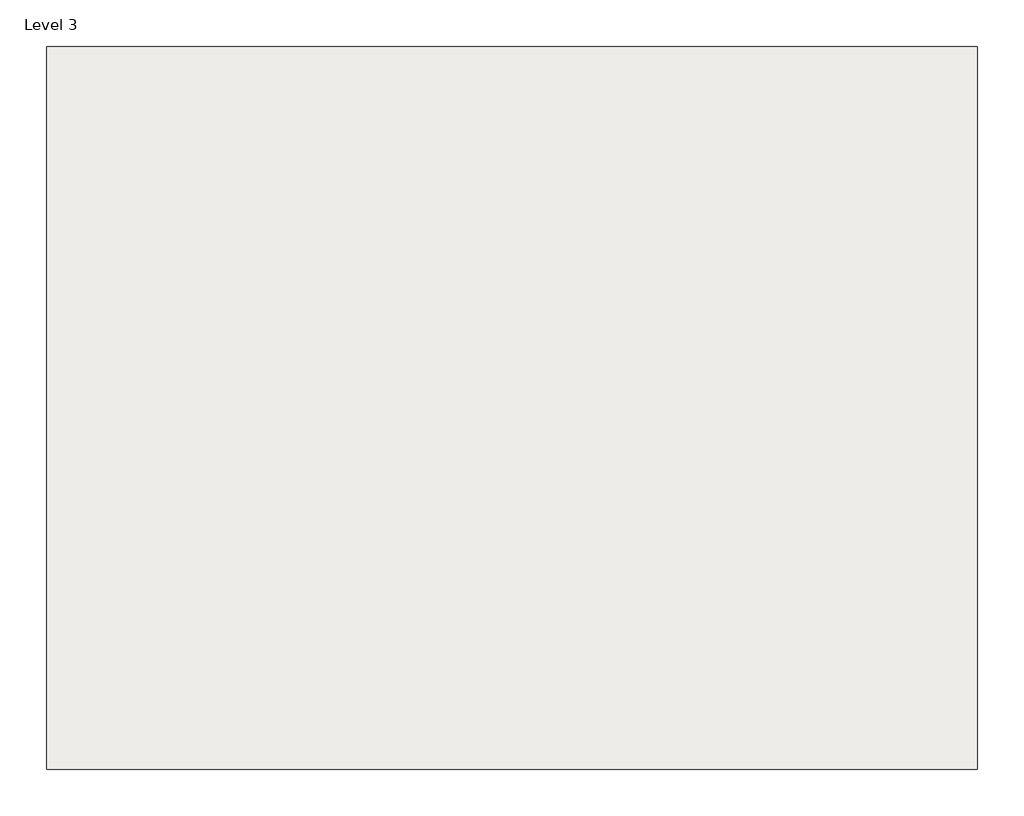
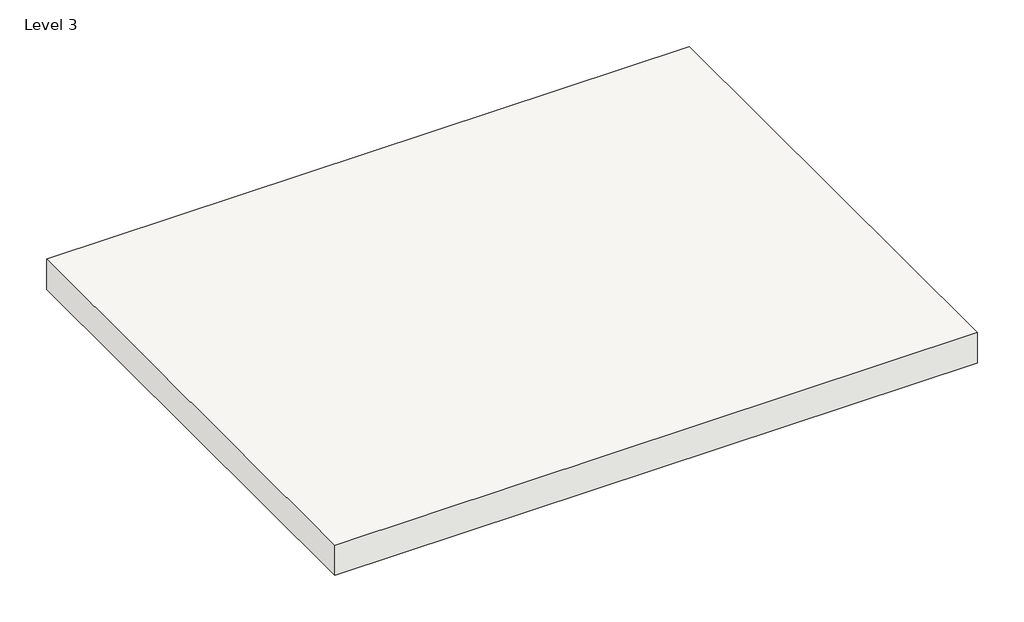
# One storey: 1 roof.
"""IFC4 building model written with IfcOpenShell, lengths in millimetres."""

from ifc_helpers import new_model, si_unit, frame, origin, place, context, project, spatial, polyline, outline, extrude, element, save

model = new_model("IFC4")

# Units and contexts
model_context = context("Model", 3, world=origin())
ifc_project = project(units=[si_unit("LENGTHUNIT", "METRE", prefix="MILLI")], contexts=[model_context])

# Site, building, storey
site = spatial("IfcSite", under=ifc_project)
building = spatial("IfcBuilding", under=site)
storey = spatial("IfcBuildingStorey", under=building, Name="Level 3", Elevation=6096.0)

# Roof
placement = place(None, origin())
element("IfcRoof", 1, ObjectType="Generic - 12\"", at=placement, inside=storey, context=model_context, shape_type="SweptSolid", body=[
    extrude(outline(polyline([(-7236.7815431, 5170.9542041), (-7236.7815431, 9946.1542041), (-1089.9815431, 9946.1542041), (-1089.9815431, 5170.9542041), (-7236.7815431, 5170.9542041)])), frame((0.0, 0.0, 6096.0), z_axis=(0.0, 0.0, 1.0), x_axis=(1.0, 0.0, 0.0)), (0.0, 0.0, 1.0), 304.8),
])

save(model, "model.ifc")
